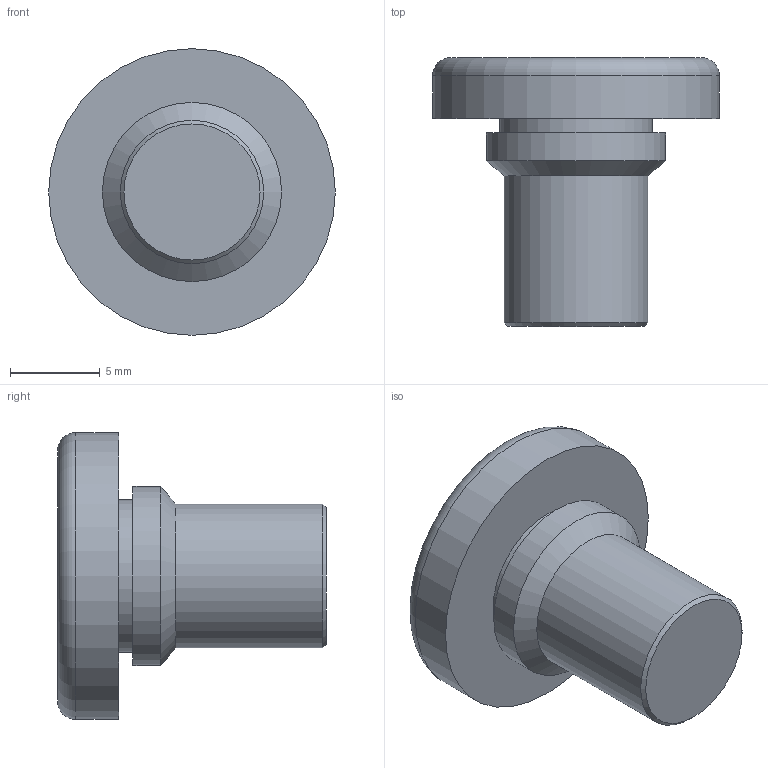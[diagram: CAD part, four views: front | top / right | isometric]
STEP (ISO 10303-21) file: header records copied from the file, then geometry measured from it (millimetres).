
FILE_DESCRIPTION(/* description */ (''),/* implementation_level */ '2;1');
FILE_NAME(/* name */ 'C:\Users\keval.kumar\Desktop\Fastit\Press Screw\M8\Press Screw_M8 x15.stp',/* time_stamp */ '2024-03-13T14:08:38+06:00',/* author */ ('keval.kumar'),/* organization */ (''),/* preprocessor_version */ 'ST-DEVELOPER v18.1',/* originating_system */ 'Autodesk Inventor 2022',/* authorisation */ '');
FILE_SCHEMA (('AUTOMOTIVE_DESIGN { 1 0 10303 214 3 1 1 }'));
Length unit declared in the file: millimetre
Products named in the file (1): Press Screw_M8 x15
Bounding box: 16 x 15 x 16 mm (x, y, z)
Volume: 1316.5 mm3; surface area: 881.8 mm2
Topology: 1 solids, 1 shells, 11 faces, 19 edges, 12 vertices
Faces by surface type: cylinder 4, plane 4, cone 2, torus 1
Full cylindrical faces by diameter (mm): 8 x1, 8.5 x1, 10 x1, 16 x1
Entity records: 313 total; most frequent: DIRECTION 56, CARTESIAN_POINT 43, ORIENTED_EDGE 38, AXIS2_PLACEMENT_3D 25, EDGE_CURVE 19, EDGE_LOOP 13, CIRCLE 13, VERTEX_POINT 12
